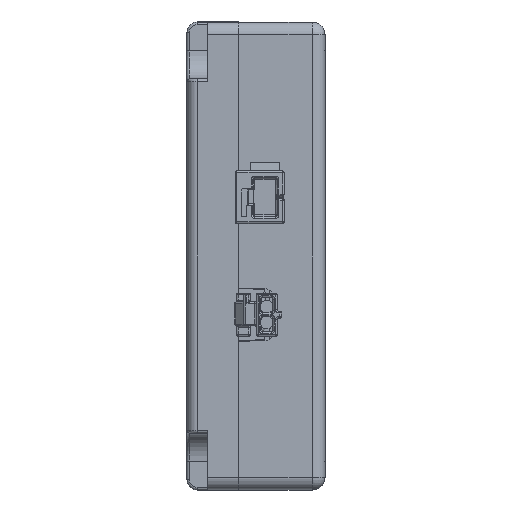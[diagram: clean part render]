
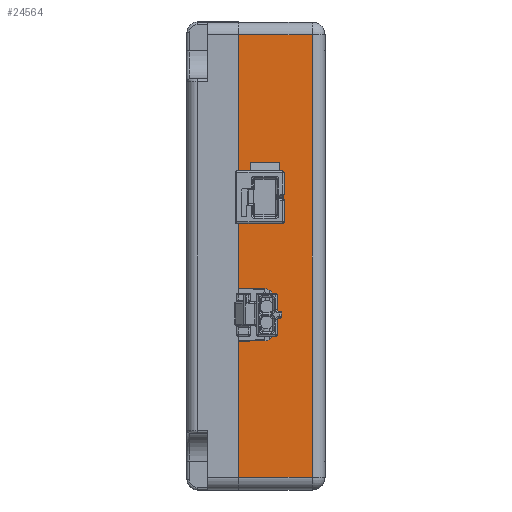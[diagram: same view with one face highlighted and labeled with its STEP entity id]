
A CAD part, left-side view. The second image highlights one B-rep face of the part: STEP entity #24564.
In plain terms, the highlighted planar face has unit normal (-1, 0, 0).
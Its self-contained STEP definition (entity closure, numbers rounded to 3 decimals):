
#549 = VERTEX_POINT ( 'NONE', #5169 ) ;
#569 = CARTESIAN_POINT ( 'NONE',  ( -39.5, 25.6, 1.5 ) ) ;
#919 = CARTESIAN_POINT ( 'NONE',  ( -39.5, -9.8, 6.974 ) ) ;
#1091 = LINE ( 'NONE', #20068, #25466 ) ;
#1337 = VERTEX_POINT ( 'NONE', #12217 ) ;
#1367 = CARTESIAN_POINT ( 'NONE',  ( -39.5, -3.8, 6.974 ) ) ;
#1376 = VERTEX_POINT ( 'NONE', #7172 ) ;
#1477 = VECTOR ( 'NONE', #17221, 1000. ) ;
#1559 = CARTESIAN_POINT ( 'NONE',  ( -39.5, 9.879, 10. ) ) ;
#1635 = EDGE_CURVE ( 'NONE', #20936, #15587, #23436, .T. ) ;
#2520 = DIRECTION ( 'NONE',  ( 0., -1., 0. ) ) ;
#2629 = FACE_OUTER_BOUND ( 'NONE', #20483, .T. ) ;
#2830 = EDGE_CURVE ( 'NONE', #4789, #12658, #17367, .T. ) ;
#2963 = DIRECTION ( 'NONE',  ( -1., 0., 0. ) ) ;
#3121 = EDGE_CURVE ( 'NONE', #9568, #24071, #18656, .T. ) ;
#3664 = EDGE_CURVE ( 'NONE', #30577, #549, #10513, .T. ) ;
#4243 = ORIENTED_EDGE ( 'NONE', *, *, #29422, .F. ) ;
#4432 = VECTOR ( 'NONE', #18356, 1000. ) ;
#4709 = CARTESIAN_POINT ( 'NONE',  ( -39.5, 3.8, 6.974 ) ) ;
#4751 = ORIENTED_EDGE ( 'NONE', *, *, #16625, .F. ) ;
#4789 = VERTEX_POINT ( 'NONE', #24182 ) ;
#4913 = CIRCLE ( 'NONE', #21593, 1. ) ;
#4944 = AXIS2_PLACEMENT_3D ( 'NONE', #14548, #29303, #28841 ) ;
#5169 = CARTESIAN_POINT ( 'NONE',  ( -39.5, -4.8, 6. ) ) ;
#6135 = DIRECTION ( 'NONE',  ( 0., -0.026, -1. ) ) ;
#6996 = CARTESIAN_POINT ( 'NONE',  ( -39.5, 25.6, 1.5 ) ) ;
#7045 = ORIENTED_EDGE ( 'NONE', *, *, #21456, .F. ) ;
#7172 = CARTESIAN_POINT ( 'NONE',  ( -39.5, -3.721, 10. ) ) ;
#7406 = ORIENTED_EDGE ( 'NONE', *, *, #8619, .F. ) ;
#7525 = CARTESIAN_POINT ( 'NONE',  ( -39.5, -9.879, 10. ) ) ;
#7799 = CARTESIAN_POINT ( 'NONE',  ( -39.5, 8.8, 7. ) ) ;
#7930 = VECTOR ( 'NONE', #26847, 1000. ) ;
#8522 = LINE ( 'NONE', #13122, #16246 ) ;
#8619 = EDGE_CURVE ( 'NONE', #24071, #22579, #8522, .T. ) ;
#8770 = DIRECTION ( 'NONE',  ( 0., 0., -1. ) ) ;
#9065 = CARTESIAN_POINT ( 'NONE',  ( -39.5, 9.879, 10. ) ) ;
#9404 = VECTOR ( 'NONE', #2520, 1000. ) ;
#9568 = VERTEX_POINT ( 'NONE', #11862 ) ;
#9672 = ORIENTED_EDGE ( 'NONE', *, *, #16043, .T. ) ;
#10488 = VERTEX_POINT ( 'NONE', #9065 ) ;
#10513 = CIRCLE ( 'NONE', #18101, 1. ) ;
#10672 = CARTESIAN_POINT ( 'NONE',  ( -39.5, 4.8, 6. ) ) ;
#10978 = CIRCLE ( 'NONE', #11491, 1. ) ;
#11054 = ORIENTED_EDGE ( 'NONE', *, *, #13975, .F. ) ;
#11482 = VECTOR ( 'NONE', #14859, 1000. ) ;
#11491 = AXIS2_PLACEMENT_3D ( 'NONE', #14892, #26807, #19332 ) ;
#11665 = ORIENTED_EDGE ( 'NONE', *, *, #23520, .T. ) ;
#11862 = CARTESIAN_POINT ( 'NONE',  ( -39.5, -8.8, 6. ) ) ;
#12200 = LINE ( 'NONE', #6996, #20089 ) ;
#12217 = CARTESIAN_POINT ( 'NONE',  ( -39.5, -25.6, 1.5 ) ) ;
#12266 = PLANE ( 'NONE',  #22434 ) ;
#12308 = CARTESIAN_POINT ( 'NONE',  ( -39.5, -8.8, 6. ) ) ;
#12363 = CARTESIAN_POINT ( 'NONE',  ( -39.5, 25.6, 10. ) ) ;
#12607 = DIRECTION ( 'NONE',  ( 0., 0., -1. ) ) ;
#12658 = VERTEX_POINT ( 'NONE', #10672 ) ;
#13122 = CARTESIAN_POINT ( 'NONE',  ( -39.5, -9.879, 10. ) ) ;
#13267 = DIRECTION ( 'NONE',  ( 0., -0.026, 1. ) ) ;
#13975 = EDGE_CURVE ( 'NONE', #22579, #21055, #1091, .T. ) ;
#14317 = CARTESIAN_POINT ( 'NONE',  ( -39.5, -25.6, 1.2 ) ) ;
#14424 = VECTOR ( 'NONE', #25859, 1000. ) ;
#14548 = CARTESIAN_POINT ( 'NONE',  ( -39.5, -8.8, 7. ) ) ;
#14620 = DIRECTION ( 'NONE',  ( -1., 0., 0. ) ) ;
#14811 = CARTESIAN_POINT ( 'NONE',  ( -39.5, -25.6, 10. ) ) ;
#14859 = DIRECTION ( 'NONE',  ( 0., -1., 0. ) ) ;
#14892 = CARTESIAN_POINT ( 'NONE',  ( -39.5, 4.8, 7. ) ) ;
#15057 = VECTOR ( 'NONE', #6135, 1000. ) ;
#15142 = CARTESIAN_POINT ( 'NONE',  ( -39.5, -4.8, 7. ) ) ;
#15479 = CARTESIAN_POINT ( 'NONE',  ( -39.5, 25.6, 10. ) ) ;
#15587 = VERTEX_POINT ( 'NONE', #25442 ) ;
#15618 = ORIENTED_EDGE ( 'NONE', *, *, #26069, .F. ) ;
#16043 = EDGE_CURVE ( 'NONE', #17800, #29782, #26150, .T. ) ;
#16246 = VECTOR ( 'NONE', #13267, 1000. ) ;
#16625 = EDGE_CURVE ( 'NONE', #549, #9568, #28971, .T. ) ;
#17221 = DIRECTION ( 'NONE',  ( 0., -1., 0. ) ) ;
#17367 = LINE ( 'NONE', #31208, #1477 ) ;
#17800 = VERTEX_POINT ( 'NONE', #12363 ) ;
#17822 = EDGE_CURVE ( 'NONE', #12658, #20936, #10978, .T. ) ;
#18101 = AXIS2_PLACEMENT_3D ( 'NONE', #15142, #2963, #12607 ) ;
#18356 = DIRECTION ( 'NONE',  ( 0., -0.026, 1. ) ) ;
#18442 = DIRECTION ( 'NONE',  ( 0., -0.026, -1. ) ) ;
#18609 = ORIENTED_EDGE ( 'NONE', *, *, #21846, .F. ) ;
#18656 = CIRCLE ( 'NONE', #4944, 1. ) ;
#18843 = VERTEX_POINT ( 'NONE', #22464 ) ;
#19055 = LINE ( 'NONE', #14317, #7930 ) ;
#19332 = DIRECTION ( 'NONE',  ( 0., 0., 1. ) ) ;
#19596 = ORIENTED_EDGE ( 'NONE', *, *, #17822, .F. ) ;
#19930 = LINE ( 'NONE', #29617, #11482 ) ;
#20068 = CARTESIAN_POINT ( 'NONE',  ( -39.5, 25.6, 10. ) ) ;
#20089 = VECTOR ( 'NONE', #31088, 1000. ) ;
#20483 = EDGE_LOOP ( 'NONE', ( #9672, #11665, #7045, #11054, #7406, #30664, #4751, #26269, #4243, #18609, #24461, #19596, #25593, #21085, #15618, #26118 ) ) ;
#20548 = VECTOR ( 'NONE', #30251, 1000. ) ;
#20722 = EDGE_CURVE ( 'NONE', #17800, #10488, #22777, .T. ) ;
#20936 = VERTEX_POINT ( 'NONE', #4709 ) ;
#21055 = VERTEX_POINT ( 'NONE', #14811 ) ;
#21085 = ORIENTED_EDGE ( 'NONE', *, *, #24921, .F. ) ;
#21456 = EDGE_CURVE ( 'NONE', #21055, #1337, #19055, .T. ) ;
#21593 = AXIS2_PLACEMENT_3D ( 'NONE', #7799, #14620, #24432 ) ;
#21846 = EDGE_CURVE ( 'NONE', #15587, #1376, #19930, .T. ) ;
#21929 = CARTESIAN_POINT ( 'NONE',  ( -39.5, 25.6, 1.2 ) ) ;
#22434 = AXIS2_PLACEMENT_3D ( 'NONE', #21929, #30510, #8770 ) ;
#22464 = CARTESIAN_POINT ( 'NONE',  ( -39.5, 9.8, 6.974 ) ) ;
#22579 = VERTEX_POINT ( 'NONE', #7525 ) ;
#22777 = LINE ( 'NONE', #15479, #20548 ) ;
#22953 = CARTESIAN_POINT ( 'NONE',  ( -39.5, -3.8, 6.974 ) ) ;
#23215 = LINE ( 'NONE', #1367, #25819 ) ;
#23230 = LINE ( 'NONE', #1559, #15057 ) ;
#23436 = LINE ( 'NONE', #30768, #4432 ) ;
#23520 = EDGE_CURVE ( 'NONE', #29782, #1337, #12200, .T. ) ;
#24071 = VERTEX_POINT ( 'NONE', #919 ) ;
#24182 = CARTESIAN_POINT ( 'NONE',  ( -39.5, 8.8, 6. ) ) ;
#24432 = DIRECTION ( 'NONE',  ( 0., 0., 1. ) ) ;
#24461 = ORIENTED_EDGE ( 'NONE', *, *, #1635, .F. ) ;
#24564 = ADVANCED_FACE ( 'NONE', ( #2629 ), #12266, .F. ) ;
#24921 = EDGE_CURVE ( 'NONE', #18843, #4789, #4913, .T. ) ;
#25442 = CARTESIAN_POINT ( 'NONE',  ( -39.5, 3.721, 10. ) ) ;
#25466 = VECTOR ( 'NONE', #27382, 1000. ) ;
#25593 = ORIENTED_EDGE ( 'NONE', *, *, #2830, .F. ) ;
#25819 = VECTOR ( 'NONE', #18442, 1000. ) ;
#25859 = DIRECTION ( 'NONE',  ( 0., 0., -1. ) ) ;
#26069 = EDGE_CURVE ( 'NONE', #10488, #18843, #23230, .T. ) ;
#26118 = ORIENTED_EDGE ( 'NONE', *, *, #20722, .F. ) ;
#26150 = LINE ( 'NONE', #28228, #14424 ) ;
#26269 = ORIENTED_EDGE ( 'NONE', *, *, #3664, .F. ) ;
#26807 = DIRECTION ( 'NONE',  ( -1., 0., 0. ) ) ;
#26847 = DIRECTION ( 'NONE',  ( 0., 0., -1. ) ) ;
#27382 = DIRECTION ( 'NONE',  ( 0., -1., 0. ) ) ;
#28228 = CARTESIAN_POINT ( 'NONE',  ( -39.5, 25.6, 1.2 ) ) ;
#28841 = DIRECTION ( 'NONE',  ( 0., 0., -1. ) ) ;
#28971 = LINE ( 'NONE', #12308, #9404 ) ;
#29303 = DIRECTION ( 'NONE',  ( -1., 0., 0. ) ) ;
#29422 = EDGE_CURVE ( 'NONE', #1376, #30577, #23215, .T. ) ;
#29617 = CARTESIAN_POINT ( 'NONE',  ( -39.5, 25.6, 10. ) ) ;
#29782 = VERTEX_POINT ( 'NONE', #569 ) ;
#30251 = DIRECTION ( 'NONE',  ( 0., -1., 0. ) ) ;
#30510 = DIRECTION ( 'NONE',  ( 1., 0., 0. ) ) ;
#30577 = VERTEX_POINT ( 'NONE', #22953 ) ;
#30664 = ORIENTED_EDGE ( 'NONE', *, *, #3121, .F. ) ;
#30768 = CARTESIAN_POINT ( 'NONE',  ( -39.5, 3.8, 6.974 ) ) ;
#31088 = DIRECTION ( 'NONE',  ( 0., -1., 0. ) ) ;
#31208 = CARTESIAN_POINT ( 'NONE',  ( -39.5, 8.8, 6. ) ) ;
